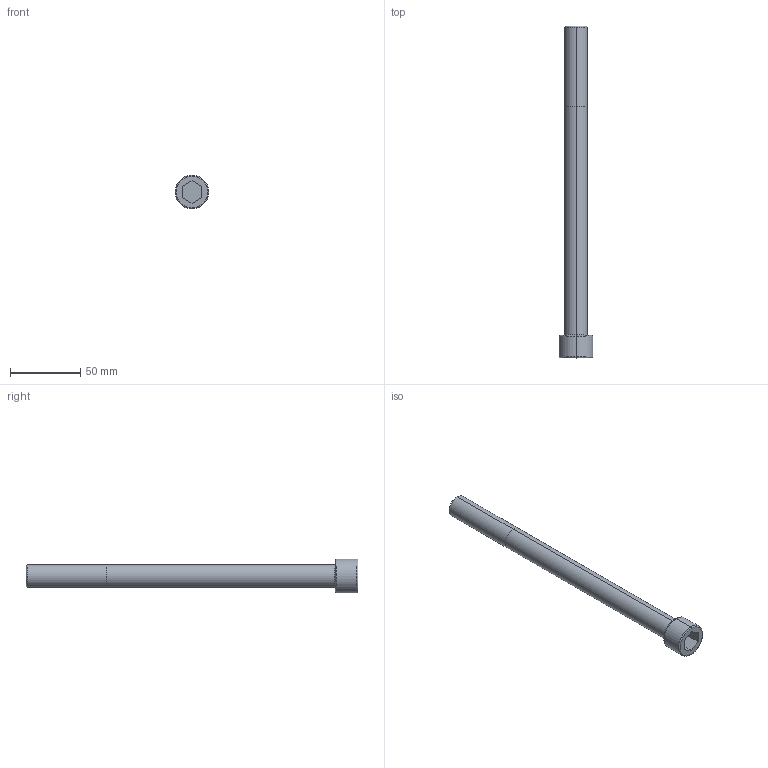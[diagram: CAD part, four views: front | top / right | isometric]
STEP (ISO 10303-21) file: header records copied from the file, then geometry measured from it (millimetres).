
FILE_DESCRIPTION (( 'STEP AP214' ), '1' );
FILE_NAME ('M_16X220.STEP', '2016-03-08T00:40:39', ( '' ), ( '' ), 'SwSTEP 2.0', 'SolidWorks 2014', '' );
FILE_SCHEMA (( 'AUTOMOTIVE_DESIGN' ));
Length unit declared in the file: millimetre
Products named in the file (1): M_16X220
Bounding box: 24 x 236 x 24 mm (x, y, z)
Volume: 49070.7 mm3; surface area: 13755.3 mm2
Topology: 1 solids, 1 shells, 25 faces, 52 edges, 32 vertices
Faces by surface type: plane 11, torus 6, cylinder 6, cone 2
Entity records: 746 total; most frequent: DIRECTION 130, CARTESIAN_POINT 110, ORIENTED_EDGE 104, EDGE_CURVE 52, AXIS2_PLACEMENT_3D 52, VERTEX_POINT 32, EDGE_LOOP 28, CIRCLE 26
